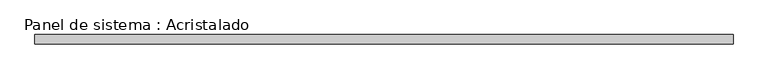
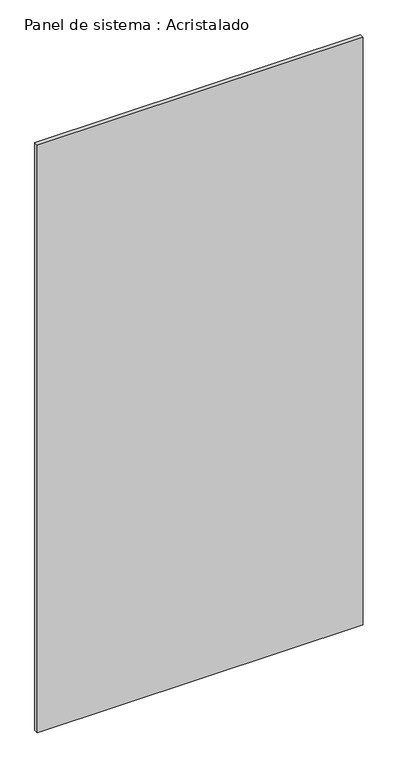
"""IFC4 building model written with IfcOpenShell, lengths in millimetres: plate geometry, Panel de sistema : Acristalado."""

import ifcopenshell
import ifcopenshell.guid

model = None  # the IFC model being written
_history = None  # IfcOwnerHistory: only IFC2X3 demands one
_inside = {}  # id of a spatial element -> (the spatial element, [elements in it])
_under = {}  # id of a project, library or spatial element -> (it, [spatial elements below it])
_declared = {}  # id of a project -> (the project, [libraries it declares])
_typed = {}  # id of a type object -> (the type object, [elements of that type])
_made_of = {}  # id of a material, layer set ... -> (it, [elements and type objects made of it])


def new_model(schema):
    """Start an empty IFC model of exactly this schema.

    Asked for "IFC4X3", IfcOpenShell would pick the latest addendum, in which some entities
    have other attributes; the version numbers below select the first issue.
    IFC2X3 requires an IfcOwnerHistory on every rooted entity: one is made here for all.
    """
    global model, _history
    if schema == "IFC4X3":
        model = ifcopenshell.file(schema_version=(4, 3, 0, 0))
    else:
        model = ifcopenshell.file(schema=schema)
    _inside.clear()
    _under.clear()
    _declared.clear()
    _typed.clear()
    _made_of.clear()
    _history = None
    if model.schema == "IFC2X3":
        org = make("IfcOrganization", Name="unknown")
        user = make(
            "IfcPersonAndOrganization",
            ThePerson=make("IfcPerson", FamilyName="unknown"),
            TheOrganization=org,
        )
        app = make(
            "IfcApplication",
            ApplicationDeveloper=org,
            Version="unknown",
            ApplicationFullName="unknown",
            ApplicationIdentifier="unknown",
        )
        _history = make(
            "IfcOwnerHistory",
            OwningUser=user,
            OwningApplication=app,
            ChangeAction="ADDED",
            CreationDate=0,
        )
    return model


def make(cls, **values):
    """One entity of the class cls with the attributes given. An attribute that is None is left unset."""
    return model.create_entity(
        cls, **{name: value for name, value in values.items() if value is not None}
    )


def rooted(cls, **values):
    """An entity with a GlobalId (a new one), such as an element, a storey or a relation."""
    return make(cls, GlobalId=ifcopenshell.guid.new(), OwnerHistory=_history, **values)


def si_unit(unit_type, name, prefix=None):
    """IfcSIUnit, for example si_unit("LENGTHUNIT", "METRE", prefix="MILLI")."""
    return make("IfcSIUnit", UnitType=unit_type, Prefix=prefix, Name=name)


def assignment(units):
    """IfcUnitAssignment: the units of a project."""
    return None if units is None else make("IfcUnitAssignment", Units=units)


def point(xyz):
    """IfcCartesianPoint."""
    return None if xyz is None else make("IfcCartesianPoint", Coordinates=xyz)


def direction(xyz):
    """IfcDirection."""
    return None if xyz is None else make("IfcDirection", DirectionRatios=xyz)


def frame(location, z_axis=None, x_axis=None):
    """IfcAxis2Placement3D, a coordinate frame: its origin and axes. An axis left out is left unset."""
    return make(
        "IfcAxis2Placement3D",
        Location=point(location),
        Axis=direction(z_axis),
        RefDirection=direction(x_axis),
    )


def origin():
    """The frame at (0, 0, 0) with its axes left unset."""
    return frame((0.0, 0.0, 0.0))


def origin_with_axes():
    """The frame at (0, 0, 0) with the z axis (0, 0, 1) and the x axis (1, 0, 0) written out."""
    return frame((0.0, 0.0, 0.0), z_axis=(0.0, 0.0, 1.0), x_axis=(1.0, 0.0, 0.0))


def place(relative_to, where):
    """IfcLocalPlacement: puts the frame where relative to a parent placement (None: the world)."""
    return make(
        "IfcLocalPlacement", PlacementRelTo=relative_to, RelativePlacement=where
    )


def context(
    kind, dimensions, precision=None, world=None, true_north=None, identifier=None
):
    """IfcGeometricRepresentationContext, for example the 3D "Model" context."""
    return make(
        "IfcGeometricRepresentationContext",
        ContextIdentifier=identifier,
        ContextType=kind,
        CoordinateSpaceDimension=dimensions,
        Precision=precision,
        WorldCoordinateSystem=world,
        TrueNorth=true_north,
    )


def project(units=None, contexts=None):
    """IfcProject with its units and contexts."""
    return rooted(
        "IfcProject",
        Name="project",
        RepresentationContexts=contexts,
        UnitsInContext=assignment(units),
    )


def spatial(cls, under=None, at=None, **own):
    """A site, building, storey or space (cls), placed at a placement, below another one or the project."""
    s = rooted(cls, ObjectPlacement=at, **own)
    if under is not None:
        _under.setdefault(under.id(), (under, []))[1].append(s)
    return s


def polyline(points):
    """IfcPolyline through the points."""
    return make("IfcPolyline", Points=[point(p) for p in points])


def outline(outer, holes=None, kind="AREA"):
    """IfcArbitraryClosedProfileDef: a profile drawn as a closed curve; with holes, ...WithVoids."""
    if holes is None:
        return make("IfcArbitraryClosedProfileDef", ProfileType=kind, OuterCurve=outer)
    return make(
        "IfcArbitraryProfileDefWithVoids",
        ProfileType=kind,
        OuterCurve=outer,
        InnerCurves=holes,
    )


def extrude(swept, where, along, depth):
    """IfcExtrudedAreaSolid: the profile swept, set in the frame where, extruded along a direction by depth."""
    return make(
        "IfcExtrudedAreaSolid",
        SweptArea=swept,
        Position=where,
        ExtrudedDirection=direction(along),
        Depth=depth,
    )


def shape(context_of_items, identifier, shape_type, items):
    """IfcShapeRepresentation: the items that make up one representation, for example the "Body"."""
    return make(
        "IfcShapeRepresentation",
        ContextOfItems=context_of_items,
        RepresentationIdentifier=identifier,
        RepresentationType=shape_type,
        Items=items,
    )


def source(mapping_origin, context_of_items, identifier, shape_type, items):
    """IfcRepresentationMap: a shape defined once, which mapped items show again and again."""
    return make(
        "IfcRepresentationMap",
        MappingOrigin=mapping_origin,
        MappedRepresentation=shape(context_of_items, identifier, shape_type, items),
    )


def transform(
    local_origin,
    x_axis=None,
    y_axis=None,
    z_axis=None,
    scale=None,
    scale2=None,
    scale3=None,
    uniform=True,
):
    """IfcCartesianTransformationOperator3D, or its non-uniform kind. x_axis, y_axis, z_axis: its Axis1, 2, 3."""
    if uniform:
        return make(
            "IfcCartesianTransformationOperator3D",
            Axis1=direction(x_axis),
            Axis2=direction(y_axis),
            LocalOrigin=point(local_origin),
            Scale=scale,
            Axis3=direction(z_axis),
        )
    return make(
        "IfcCartesianTransformationOperator3DnonUniform",
        Axis1=direction(x_axis),
        Axis2=direction(y_axis),
        LocalOrigin=point(local_origin),
        Scale=scale,
        Axis3=direction(z_axis),
        Scale2=scale2,
        Scale3=scale3,
    )


def mapped(mapping_source, mapping_target):
    """IfcMappedItem: shows the shape of a source again, moved by a transform."""
    return make(
        "IfcMappedItem", MappingSource=mapping_source, MappingTarget=mapping_target
    )


def made_of(thing, what):
    """Note that an element or type object is made of a material, layer set ...; save() writes the relation."""
    if what is not None:
        _made_of.setdefault(what.id(), (what, []))[1].append(thing)
    return thing


def element(
    cls,
    number,
    at=None,
    inside=None,
    cuts=None,
    type_object=None,
    material=None,
    context=None,
    identifier="Body",
    shape_type=None,
    held_by="IfcProductDefinitionShape",
    body=None,
    shapes=None,
    **own,
):
    """One element of the class cls, such as IfcWall. Its Tag is "e" and its number.

    at: its placement. inside: the storey or other place that contains it. cuts: it is an
    opening in that element (IfcRelVoidsElement). A single representation is given by context,
    identifier, shape_type and body (its items); several are given by shapes. held_by: the class
    of the entity that holds the representations. save() writes the other relations.
    """
    e = rooted(cls, Tag="e%d" % number, ObjectPlacement=at, **own)
    if body is not None:
        shapes = [shape(context, identifier, shape_type, body)]
    if shapes is not None:
        e.Representation = make(held_by, Representations=shapes)
    if inside is not None:
        _inside.setdefault(inside.id(), (inside, []))[1].append(e)
    if cuts is not None:
        rooted(
            "IfcRelVoidsElement", RelatingBuildingElement=cuts, RelatedOpeningElement=e
        )
    if type_object is not None:
        _typed.setdefault(type_object.id(), (type_object, []))[1].append(e)
    return made_of(e, material)


def aggregate(whole, parts):
    """IfcRelAggregates: a whole, such as a stair, and the parts it consists of."""
    return rooted("IfcRelAggregates", RelatingObject=whole, RelatedObjects=parts)


def save(model, path):
    """Write the relations noted so far, then the file.

    IfcRelAggregates (storeys below a building ...), IfcRelContainedInSpatialStructure (elements
    in a storey), IfcRelDefinesByType, IfcRelAssociatesMaterial and IfcRelDeclares: one each for
    every whole, place, type object, material and project.
    """
    for whole, parts in _under.values():
        aggregate(whole, parts)
    for where, things in _inside.values():
        rooted(
            "IfcRelContainedInSpatialStructure",
            RelatedElements=things,
            RelatingStructure=where,
        )
    for kind, things in _typed.values():
        rooted("IfcRelDefinesByType", RelatedObjects=things, RelatingType=kind)
    for what, things in _made_of.values():
        rooted("IfcRelAssociatesMaterial", RelatedObjects=things, RelatingMaterial=what)
    for by, libraries in _declared.values():
        rooted("IfcRelDeclares", RelatingContext=by, RelatedDefinitions=libraries)
    model.write(path)


def panel_de_sistema_acristalado_1c6b91d4(model_context):
    return source(origin(), model_context, "Body", "SweptSolid", [
        extrude(outline(polyline([(738.9698276, -10.0), (-738.9698276, -10.0), (-738.9698276, 10.0), (738.9698276, 10.0), (738.9698276, -10.0)])), origin_with_axes(), (0.0, 0.0, 1.0), 2820.0),
    ])


if __name__ == "__main__":
    model = new_model("IFC4")
    model_context = context("Model", 3, world=origin())
    ifc_project = project(units=[si_unit("LENGTHUNIT", "METRE", prefix="MILLI")], contexts=[model_context])
    site = spatial("IfcSite", under=ifc_project)
    building = spatial("IfcBuilding", under=site)
    placement = place(None, origin())
    panel_de_sistema_acristalado_shape = panel_de_sistema_acristalado_1c6b91d4(model_context)
    element("IfcPlate", 1, ObjectType="Panel de sistema : Acristalado", at=placement, inside=building, context=model_context, shape_type="MappedRepresentation", body=[
        mapped(panel_de_sistema_acristalado_shape, transform((0.0, 0.0, 0.0), x_axis=(1.0, 0.0, 0.0), y_axis=(0.0, 1.0, 0.0), z_axis=(0.0, 0.0, 1.0))),
    ])
    save(model, "model.ifc")
